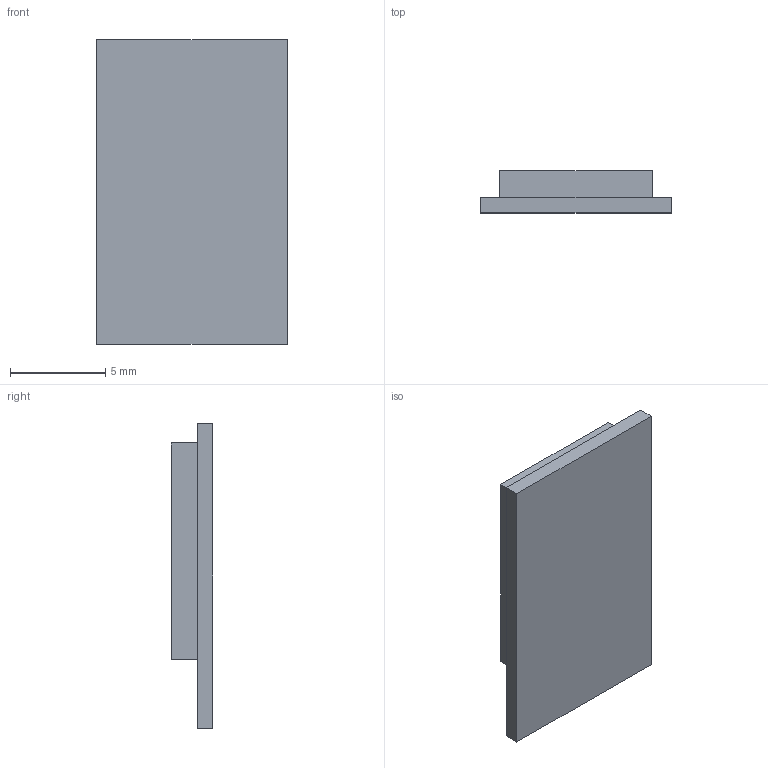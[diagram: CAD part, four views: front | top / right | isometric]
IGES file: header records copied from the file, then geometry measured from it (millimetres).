
Start section:  PTC IGES file: mdbt42q-p.igs
Global section: file name: mdbt42q-p.igs; native system: Pro/ENGINEER by Parametric Technology Corporation; preprocessor: 2008170; author: cotron; organization: Unknown; date: 20161213.141759; units: millimetre
Bounding box: 10 x 2.2 x 16 mm (x, y, z)
Surface area: 415.9 mm2 (no closed solid volume)
Topology: 0 solids, 0 shells, 11 faces, 48 edges, 48 vertices
Faces by surface type: bspline 11
